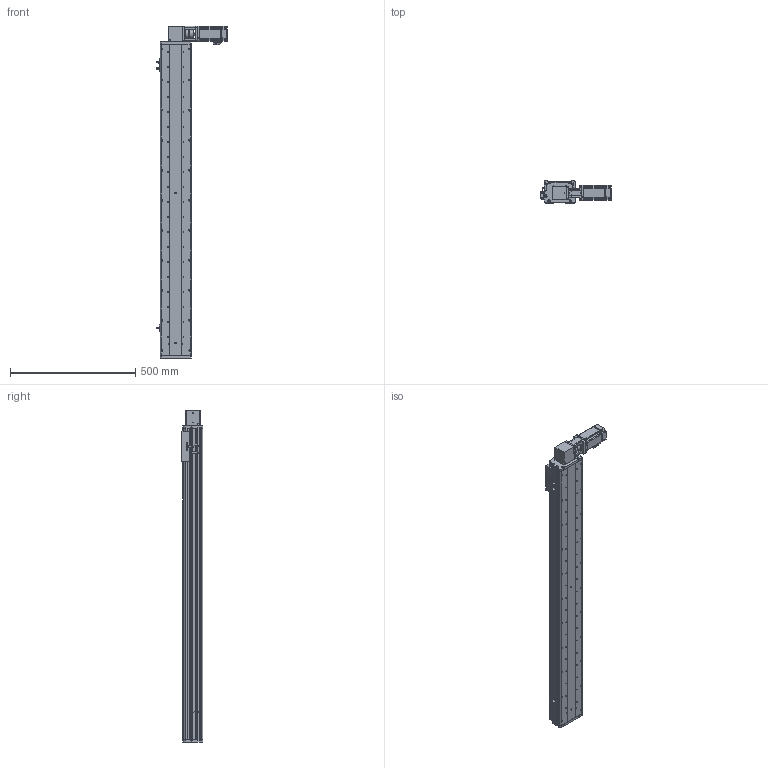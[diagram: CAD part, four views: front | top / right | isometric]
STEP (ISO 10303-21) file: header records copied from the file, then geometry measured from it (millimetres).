
FILE_DESCRIPTION (( 'STEP AP214' ), '1' );
FILE_NAME ('KSD125B-S1050-MRT-CM.STEP', '2017-10-21T07:04:27', ( '微软用户' ), ( '微软中国' ), 'SwSTEP 2.0', 'SolidWorks 2014', '' );
FILE_SCHEMA (( 'AUTOMOTIVE_DESIGN' ));
Length unit declared in the file: millimetre
Products named in the file (16): 100宽马达安装板同步带左; KSD125模组1050行程同步带-防尘盖; 125模组1050行程同步带-底板; MHMD042G1CA_2_03; KSD125模组同步带-防撞垫2; CS-34X32-10X14; 100遵鎮湛假蚾啣1 ; 覜茼え68遵圉猾敕; U倰嫖萇假蚾璃; U倰嫖萇EEㄜSX672; KSD125模组同步带-防撞垫1; 100宽安装板同步带带电机座400W,86; 前端板-125宽模组同步带; 125模组同步带-尾端板1; KSD125模组同步带-滑动座1; KSD125B-S1050-MRT-CM
Assembly tree (19 placements, depth 2):
  KSD125B-S1050-MRT-CM
    KSD125模组同步带-滑动座1
    125模组同步带-尾端板1
    前端板-125宽模组同步带
    100宽安装板同步带带电机座400W,86
    KSD125模组同步带-防撞垫1
    U倰嫖萇EEㄜSX672  x3
    U倰嫖萇假蚾璃  x3
    覜茼え68遵圉猾敕
    100遵鎮湛假蚾啣1 
    CS-34X32-10X14
    KSD125模组同步带-防撞垫2
    MHMD042G1CA_2_03
    125模组1050行程同步带-底板
    KSD125模组1050行程同步带-防尘盖
    100宽马达安装板同步带左
Bounding box: 282.7 x 86 x 1327 mm (x, y, z)
Volume: 4041782.5 mm3; surface area: 1330515 mm2
Topology: 18 solids, 21 shells, 1728 faces, 4960 edges, 3272 vertices
Faces by surface type: cylinder 917, plane 708, cone 81, bspline 22
Entity records: 60984 total; most frequent: CARTESIAN_POINT 12314, DIRECTION 8935, ORIENTED_EDGE 8440, EDGE_CURVE 4298, AXIS2_PLACEMENT_3D 3333, VERTEX_POINT 2864, LINE 2269, VECTOR 2269
